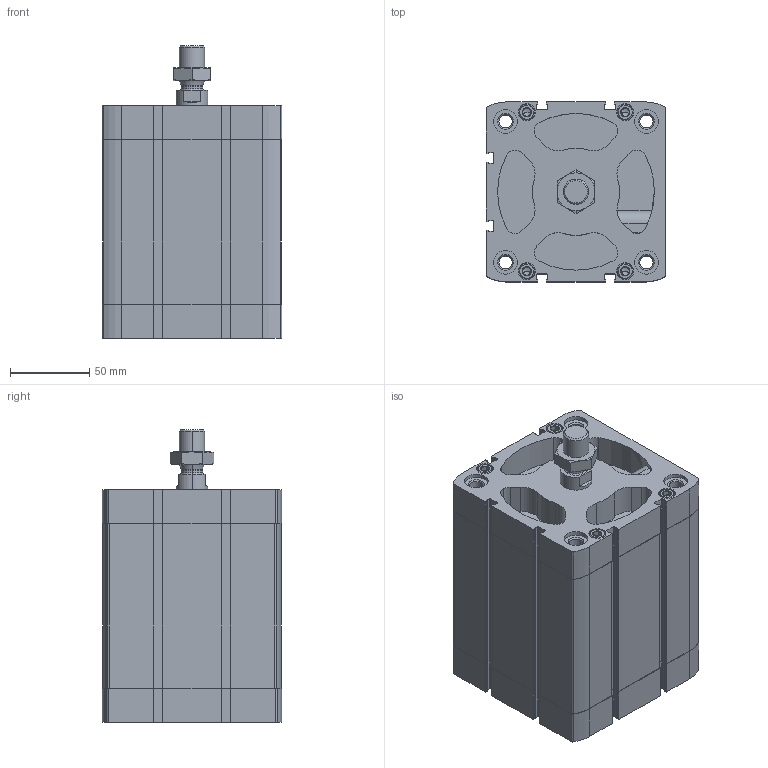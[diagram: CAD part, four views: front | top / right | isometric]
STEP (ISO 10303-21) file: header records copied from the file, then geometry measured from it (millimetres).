
FILE_DESCRIPTION (( 'STEP AP203' ), '1' );
FILE_NAME ('CCN100-80M.STEP', '2020-06-05T18:08:04', ( '' ), ( '' ), 'SwSTEP 2.0', 'SolidWorks 2019', '' );
FILE_SCHEMA (( 'CONFIG_CONTROL_DESIGN' ));
Length unit declared in the file: millimetre
Products named in the file (1): CCN100-80M
Bounding box: 113.5 x 113.5 x 184.8 mm (x, y, z)
Volume: 1071144 mm3; surface area: 223413.1 mm2
Topology: 3 solids, 3 shells, 648 faces, 1673 edges, 1068 vertices
Faces by surface type: plane 292, cylinder 272, cone 80, torus 4
Entity records: 21246 total; most frequent: CARTESIAN_POINT 4984, DIRECTION 3541, ORIENTED_EDGE 3314, EDGE_CURVE 1657, AXIS2_PLACEMENT_3D 1319, VERTEX_POINT 1068, VECTOR 903, LINE 903
